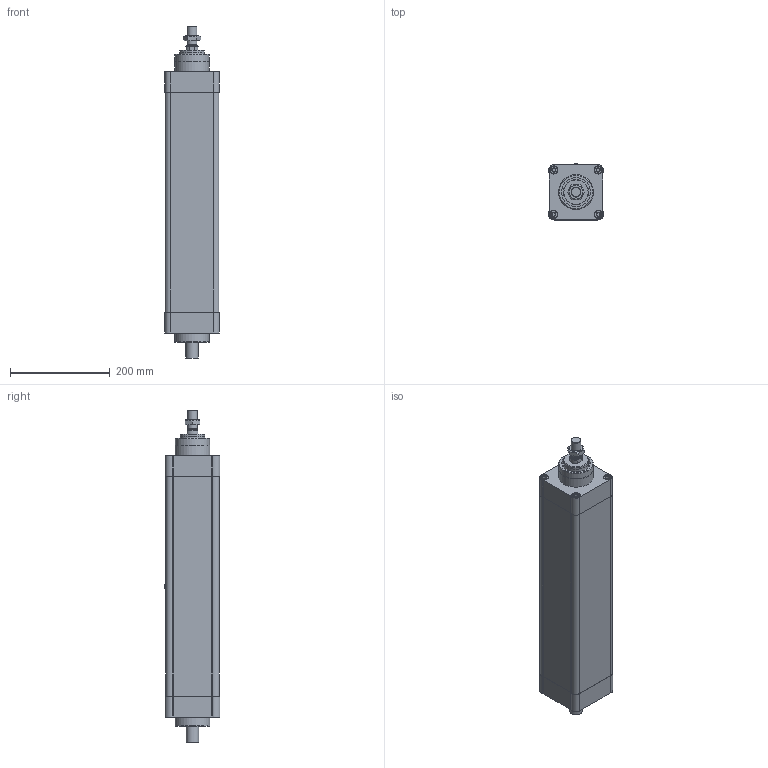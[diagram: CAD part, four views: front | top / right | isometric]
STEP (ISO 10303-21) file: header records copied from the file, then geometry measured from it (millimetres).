
FILE_DESCRIPTION(/* description */ ('STEP AP203'),/* implementation_level */ '2;1');
FILE_NAME(/* name */ 'PNCE 100 BS 4005 300 S(0)',/* time_stamp */ '2025-02-03T14:39:50+01:00',/* author */ ('License CC BY-ND 4.0'),/* organization */ ('CADENAS'),/* preprocessor_version */ 'ST-DEVELOPER v19.3',/* originating_system */ 'PARTsolutions',/* authorisation */ ' ');
FILE_SCHEMA (('CONFIG_CONTROL_DESIGN'));
Length unit declared in the file: millimetre
Products named in the file (6): PNCE 100 BS 4005 300 S(0); PNCE 100_drive cap; PNCE 100 4005 300 S(0)_cylinder profil; PNCE 100_front cap; PNCE 100 4005 300 S 0_piston rod; PNCE 100_nut
Assembly tree (5 placements, depth 2):
  PNCE 100 BS 4005 300 S(0)
    PNCE 100_drive cap
    PNCE 100 4005 300 S(0)_cylinder profil
    PNCE 100_front cap
    PNCE 100 4005 300 S 0_piston rod
    PNCE 100_nut
Bounding box: 110 x 112 x 665 mm (x, y, z)
Volume: 4998095.1 mm3; surface area: 617805.1 mm2
Topology: 5 solids, 5 shells, 258 faces, 556 edges, 366 vertices
Faces by surface type: plane 144, cylinder 84, cone 30
Full cylindrical faces by diameter (mm): 8 x4, 8.376 x8, 10 x8, 11 x4, 11.67 x1, 14.95 x1, 15 x8, 16.5 x8, 18.2 x1, 18.376 x1, 20 x1, 25 x1, 48 x1, 49.8 x1, 50 x2, 58 x1, 69 x1, 70 x2, 86 x4
Entity records: 8202 total; most frequent: CARTESIAN_POINT 1163, DIRECTION 1152, ORIENTED_EDGE 900, AXIS2_PLACEMENT_3D 460, EDGE_CURVE 450, FACE_BOUND 417, EDGE_LOOP 416, VERTEX_POINT 347
